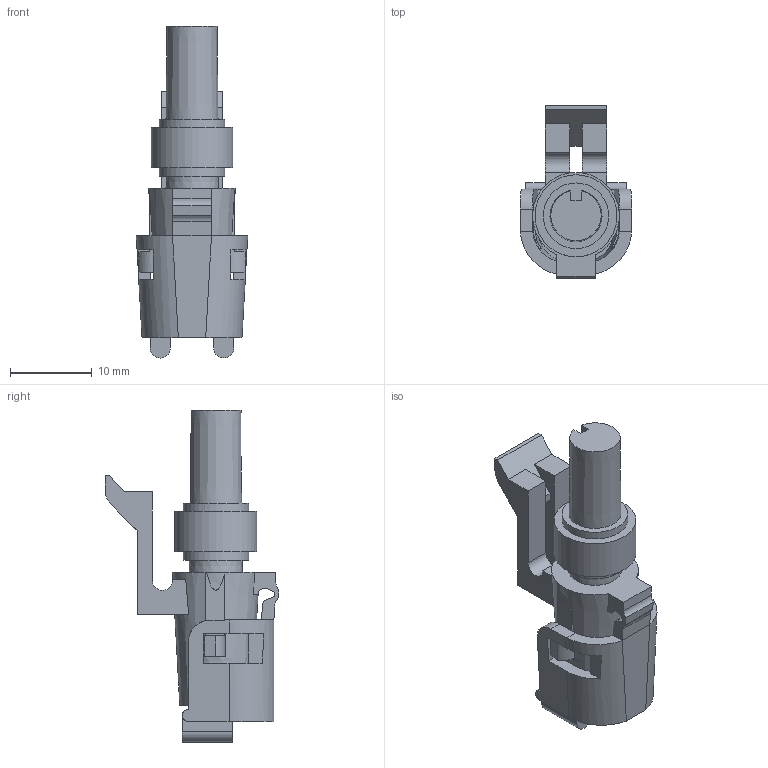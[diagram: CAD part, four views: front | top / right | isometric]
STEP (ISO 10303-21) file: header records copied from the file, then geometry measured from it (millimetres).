
FILE_DESCRIPTION(/* description */ (''),/* implementation_level */ '2;1');
FILE_NAME(/* name */ '12015791_STEP.stp',/* time_stamp */ '2021-09-30T17:20:21+06:00',/* author */ (''),/* organization */ (''),/* preprocessor_version */ 'ST-DEVELOPER v16',/* originating_system */ 'SIEMENS PLM Software NX 11.0',/* authorisation */ '');
FILE_SCHEMA (('AUTOMOTIVE_DESIGN { 1 0 10303 214 3 1 1 1 }'));
Length unit declared in the file: millimetre
Products named in the file (1): qzs540E451E98w2b
Bounding box: 13.6 x 21.18 x 40.5 mm (x, y, z)
Volume: 3056.1 mm3; surface area: 2720.2 mm2
Topology: 1 solids, 1 shells, 112 faces, 326 edges, 217 vertices
Faces by surface type: plane 86, cylinder 23, cone 3
Full cylindrical faces by diameter (mm): 8 x2, 10 x1
Entity records: 3748 total; most frequent: CARTESIAN_POINT 725, ORIENTED_EDGE 636, DIRECTION 614, EDGE_CURVE 318, LINE 216, VECTOR 216, VERTEX_POINT 214, AXIS2_PLACEMENT_3D 199
